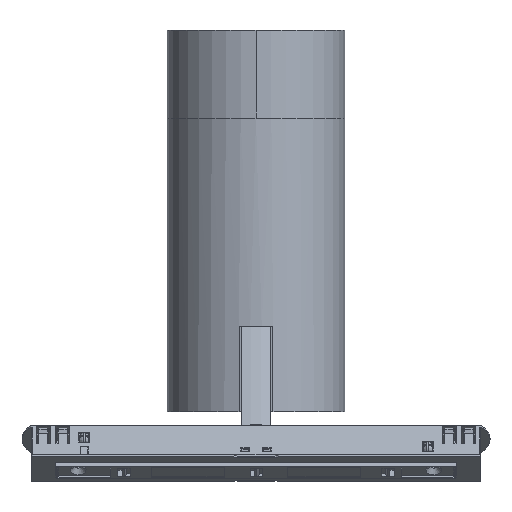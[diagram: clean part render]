
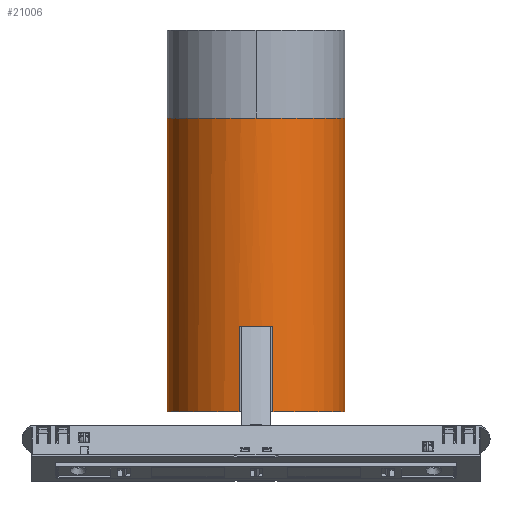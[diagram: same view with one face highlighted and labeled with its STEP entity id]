
A CAD part, front view. The second image highlights one B-rep face of the part: STEP entity #21006.
In plain terms, the highlighted cylindrical face has radius 36.5 mm (diameter 73 mm), a partial arc.
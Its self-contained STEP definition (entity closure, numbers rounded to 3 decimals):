
#58 = CARTESIAN_POINT ( 'NONE',  ( 0., 0., -60.5 ) ) ;
#800 = CARTESIAN_POINT ( 'NONE',  ( 0., 0., -60.5 ) ) ;
#2666 = VECTOR ( 'NONE', #32595, 1000. ) ;
#2751 = ORIENTED_EDGE ( 'NONE', *, *, #48653, .T. ) ;
#4859 = VERTEX_POINT ( 'NONE', #52942 ) ;
#5861 = ORIENTED_EDGE ( 'NONE', *, *, #47969, .T. ) ;
#6408 = VECTOR ( 'NONE', #7427, 1000. ) ;
#6432 = LINE ( 'NONE', #23613, #26012 ) ;
#6715 = ORIENTED_EDGE ( 'NONE', *, *, #41936, .T. ) ;
#7342 = CARTESIAN_POINT ( 'NONE',  ( -7., -35.822, -25.5 ) ) ;
#7427 = DIRECTION ( 'NONE',  ( 0., 0., 1. ) ) ;
#7791 = VERTEX_POINT ( 'NONE', #14925 ) ;
#8508 = EDGE_LOOP ( 'NONE', ( #12946, #19048, #47527, #2751, #5861, #49908, #6715, #36241 ) ) ;
#9151 = CARTESIAN_POINT ( 'NONE',  ( -7., -35.822, -60.5 ) ) ;
#9274 = FACE_OUTER_BOUND ( 'NONE', #8508, .T. ) ;
#11282 = VECTOR ( 'NONE', #50346, 1000. ) ;
#11932 = DIRECTION ( 'NONE',  ( 1., 0., 0. ) ) ;
#12946 = ORIENTED_EDGE ( 'NONE', *, *, #33600, .F. ) ;
#13223 = CARTESIAN_POINT ( 'NONE',  ( 0., 0., -60.5 ) ) ;
#13314 = CIRCLE ( 'NONE', #44738, 36.5 ) ;
#13959 = DIRECTION ( 'NONE',  ( 1., 0., 0. ) ) ;
#14925 = CARTESIAN_POINT ( 'NONE',  ( 36.5, 0., -60.5 ) ) ;
#15465 = CARTESIAN_POINT ( 'NONE',  ( -7., -35.822, -60.5 ) ) ;
#16050 = EDGE_CURVE ( 'NONE', #51653, #43751, #22381, .T. ) ;
#16062 = LINE ( 'NONE', #33189, #11282 ) ;
#16929 = EDGE_CURVE ( 'NONE', #43319, #25757, #53966, .T. ) ;
#17265 = DIRECTION ( 'NONE',  ( 0., 0., 1. ) ) ;
#17996 = DIRECTION ( 'NONE',  ( 0., 0., 1. ) ) ;
#19048 = ORIENTED_EDGE ( 'NONE', *, *, #35775, .T. ) ;
#21006 = ADVANCED_FACE ( 'NONE', ( #9274 ), #39358, .T. ) ;
#22381 = CIRCLE ( 'NONE', #53802, 36.5 ) ;
#23613 = CARTESIAN_POINT ( 'NONE',  ( 7., -35.822, -60.5 ) ) ;
#25002 = VERTEX_POINT ( 'NONE', #32320 ) ;
#25757 = VERTEX_POINT ( 'NONE', #7342 ) ;
#26012 = VECTOR ( 'NONE', #40759, 1000. ) ;
#27188 = CARTESIAN_POINT ( 'NONE',  ( -36.5, 0., -60.5 ) ) ;
#28146 = AXIS2_PLACEMENT_3D ( 'NONE', #58, #17265, #34393 ) ;
#28736 = AXIS2_PLACEMENT_3D ( 'NONE', #33280, #50439, #11932 ) ;
#28800 = LINE ( 'NONE', #45955, #6408 ) ;
#29693 = VERTEX_POINT ( 'NONE', #27188 ) ;
#30381 = DIRECTION ( 'NONE',  ( 0., 0., 1. ) ) ;
#30561 = EDGE_CURVE ( 'NONE', #25002, #7791, #13314, .T. ) ;
#32320 = CARTESIAN_POINT ( 'NONE',  ( 7., -35.822, -60.5 ) ) ;
#32595 = DIRECTION ( 'NONE',  ( 0., 0., 1. ) ) ;
#33189 = CARTESIAN_POINT ( 'NONE',  ( -36.5, 0., -60.5 ) ) ;
#33280 = CARTESIAN_POINT ( 'NONE',  ( 0., 0., -25.5 ) ) ;
#33600 = EDGE_CURVE ( 'NONE', #29693, #43751, #16062, .T. ) ;
#34393 = DIRECTION ( 'NONE',  ( 1., 0., 0. ) ) ;
#35130 = DIRECTION ( 'NONE',  ( 1., 0., 0. ) ) ;
#35315 = CARTESIAN_POINT ( 'NONE',  ( 0., 0., 60.5 ) ) ;
#35775 = EDGE_CURVE ( 'NONE', #29693, #43319, #52328, .T. ) ;
#36241 = ORIENTED_EDGE ( 'NONE', *, *, #16050, .T. ) ;
#36363 = AXIS2_PLACEMENT_3D ( 'NONE', #800, #17996, #35130 ) ;
#39358 = CYLINDRICAL_SURFACE ( 'NONE', #36363, 36.5 ) ;
#39654 = CARTESIAN_POINT ( 'NONE',  ( -36.5, 0., 60.5 ) ) ;
#40759 = DIRECTION ( 'NONE',  ( 0., 0., -1. ) ) ;
#41936 = EDGE_CURVE ( 'NONE', #7791, #51653, #28800, .T. ) ;
#43319 = VERTEX_POINT ( 'NONE', #9151 ) ;
#43751 = VERTEX_POINT ( 'NONE', #39654 ) ;
#44738 = AXIS2_PLACEMENT_3D ( 'NONE', #13223, #30381, #47541 ) ;
#45955 = CARTESIAN_POINT ( 'NONE',  ( 36.5, 0., -60.5 ) ) ;
#47527 = ORIENTED_EDGE ( 'NONE', *, *, #16929, .T. ) ;
#47541 = DIRECTION ( 'NONE',  ( 1., 0., 0. ) ) ;
#47969 = EDGE_CURVE ( 'NONE', #4859, #25002, #6432, .T. ) ;
#48653 = EDGE_CURVE ( 'NONE', #25757, #4859, #52927, .T. ) ;
#49908 = ORIENTED_EDGE ( 'NONE', *, *, #30561, .T. ) ;
#50346 = DIRECTION ( 'NONE',  ( 0., 0., 1. ) ) ;
#50439 = DIRECTION ( 'NONE',  ( 0., 0., 1. ) ) ;
#51653 = VERTEX_POINT ( 'NONE', #54340 ) ;
#52328 = CIRCLE ( 'NONE', #28146, 36.5 ) ;
#52452 = DIRECTION ( 'NONE',  ( 0., 0., -1. ) ) ;
#52927 = CIRCLE ( 'NONE', #28736, 36.5 ) ;
#52942 = CARTESIAN_POINT ( 'NONE',  ( 7., -35.822, -25.5 ) ) ;
#53802 = AXIS2_PLACEMENT_3D ( 'NONE', #35315, #52452, #13959 ) ;
#53966 = LINE ( 'NONE', #15465, #2666 ) ;
#54340 = CARTESIAN_POINT ( 'NONE',  ( 36.5, 0., 60.5 ) ) ;
